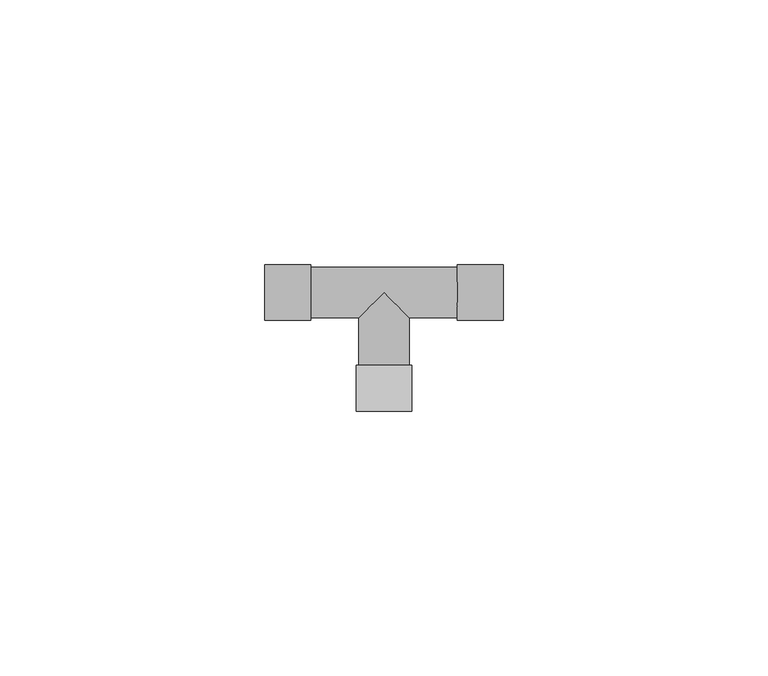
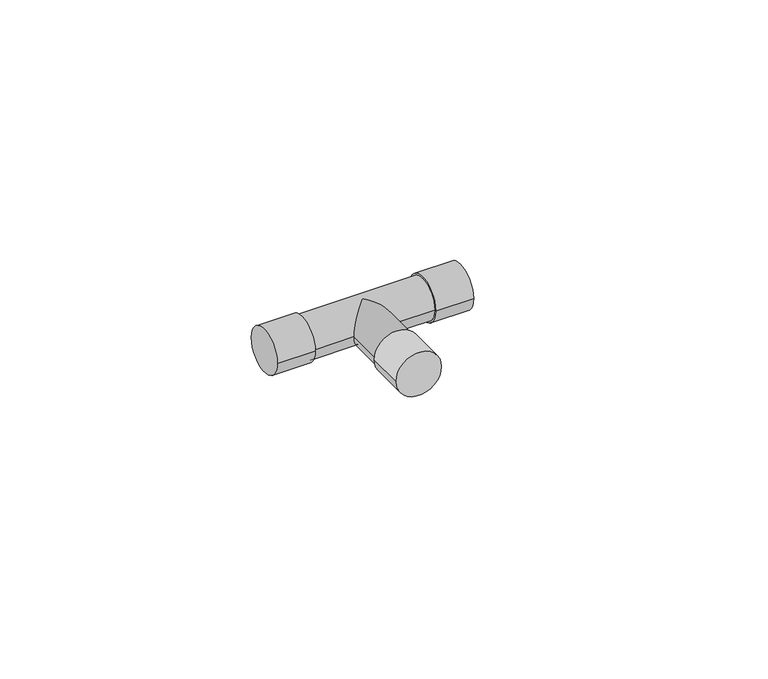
"""IFC4 building model written with IfcOpenShell, lengths in millimetres: pipe fitting geometry, Tê - Soldado - CU : Padrão."""

from ifc_helpers import new_model, si_unit, frame, origin, place, context, project, spatial, circle_curve, ellipse_curve, source, transform, mapped, element, save
from ifc_brep_helpers import plane_surface, cylinder_surface, advanced_brep


def pipe_fitting_725bd888(model_context):
    return source(origin(), model_context, "Body", "AdvancedBrep", [
        advanced_brep(
        [(5.2252, -22.4412, 0.0), (-5.2252, -22.4412, 0.0), (5.2252, -13.7568, 0.0), (-5.2252, -13.7568, 0.0), (4.76, -13.7568, 0.0), (-4.76, -13.7568, 0.0), (-22.5236, -5.2252, 0.0), (-22.5236, 5.2252, 0.0), (-13.8392, -5.2252, 0.0), (-13.8392, 5.2252, 0.0), (-13.8392, -4.76, 0.0), (-13.8392, 4.76, 0.0), (13.8392, 4.76, 0.0), (-4.76, -4.76, 0.0), (0.0, 0.0, 4.76), (4.76, -4.76, 0.0), (13.8392, -4.76, 0.0), (0.0, 0.0, -4.76), (13.8392, -5.2252, 0.0), (13.8392, 5.2252, 0.0), (22.5236, -5.2252, 0.0), (22.5236, 5.2252, 0.0)],
        [
            (0, 1, circle_curve(frame((0.0, -22.4412, 0.0), z_axis=(0.0, -1.0, 0.0), x_axis=(-1.0, 0.0, 0.0)), 5.2252)),
            (1, 0, circle_curve(frame((0.0, -22.4412, 0.0), z_axis=(0.0, -1.0, 0.0), x_axis=(-1.0, 0.0, 0.0)), 5.2252)),
            (2, 3, circle_curve(frame((0.0, -13.7568, 0.0), z_axis=(0.0, 1.0, 0.0), x_axis=(-1.0, 0.0, 0.0)), 5.2252)),
            (3, 2, circle_curve(frame((0.0, -13.7568, 0.0), z_axis=(0.0, 1.0, 0.0), x_axis=(-1.0, 0.0, 0.0)), 5.2252)),
            (4, 5, circle_curve(frame((0.0, -13.7568, 0.0), z_axis=(0.0, -1.0, 0.0), x_axis=(1.0, 0.0, 0.0)), 4.76)),
            (5, 4, circle_curve(frame((0.0, -13.7568, 0.0), z_axis=(0.0, -1.0, 0.0), x_axis=(1.0, 0.0, 0.0)), 4.76)),
            (0, 2),
            (3, 1),
            (6, 7, circle_curve(frame((-22.5236, 0.0, 0.0), z_axis=(-1.0, 0.0, 0.0), x_axis=(0.0, 1.0, 0.0)), 5.2252)),
            (7, 6, circle_curve(frame((-22.5236, 0.0, 0.0), z_axis=(-1.0, 0.0, 0.0), x_axis=(0.0, 1.0, 0.0)), 5.2252)),
            (8, 9, circle_curve(frame((-13.8392, 0.0, 0.0), z_axis=(1.0, 0.0, 0.0), x_axis=(0.0, 1.0, 0.0)), 5.2252)),
            (9, 8, circle_curve(frame((-13.8392, 0.0, 0.0), z_axis=(1.0, 0.0, 0.0), x_axis=(0.0, 1.0, 0.0)), 5.2252)),
            (10, 11, circle_curve(frame((-13.8392, 0.0, 0.0), z_axis=(-1.0, 0.0, 0.0), x_axis=(0.0, 1.0, 0.0)), 4.76)),
            (11, 10, circle_curve(frame((-13.8392, 0.0, 0.0), z_axis=(-1.0, 0.0, 0.0), x_axis=(0.0, 1.0, 0.0)), 4.76)),
            (6, 8),
            (9, 7),
            (12, 11),
            (10, 13),
            (13, 14, ellipse_curve(frame((0.0, 0.0, 0.0), z_axis=(-0.7071067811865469, 0.7071067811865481, 0.0), x_axis=(-0.707106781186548, -0.7071067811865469, 0.0)), 6.7316566, 4.76)),
            (14, 15, ellipse_curve(frame((0.0, 0.0, 0.0), z_axis=(0.7071067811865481, 0.7071067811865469, 0.0), x_axis=(-0.707106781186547, 0.7071067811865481, 0.0)), 6.7316566, 4.76)),
            (15, 16),
            (16, 12, circle_curve(frame((13.8392, 0.0, 0.0), z_axis=(-1.0, 0.0, 0.0), x_axis=(0.0, 1.0, 0.0)), 4.76)),
            (12, 16, circle_curve(frame((13.8392, 0.0, 0.0), z_axis=(-1.0, 0.0, 0.0), x_axis=(0.0, 1.0, 0.0)), 4.76)),
            (15, 17, ellipse_curve(frame((0.0, 0.0, 0.0), z_axis=(0.7071067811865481, 0.7071067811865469, 0.0), x_axis=(-0.707106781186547, 0.7071067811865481, 0.0)), 6.7316566, 4.76)),
            (17, 13, ellipse_curve(frame((0.0, 0.0, 0.0), z_axis=(-0.7071067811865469, 0.7071067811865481, 0.0), x_axis=(-0.707106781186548, -0.7071067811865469, 0.0)), 6.7316566, 4.76)),
            (18, 19, circle_curve(frame((13.8392, 0.0, 0.0), z_axis=(-1.0, 0.0, 0.0), x_axis=(0.0, 1.0, 0.0)), 5.2252)),
            (19, 18, circle_curve(frame((13.8392, 0.0, 0.0), z_axis=(-1.0, 0.0, 0.0), x_axis=(0.0, 1.0, 0.0)), 5.2252)),
            (20, 21, circle_curve(frame((22.5236, 0.0, 0.0), z_axis=(1.0, 0.0, 0.0), x_axis=(0.0, 1.0, 0.0)), 5.2252)),
            (21, 20, circle_curve(frame((22.5236, 0.0, 0.0), z_axis=(1.0, 0.0, 0.0), x_axis=(0.0, 1.0, 0.0)), 5.2252)),
            (18, 20),
            (21, 19),
            (4, 15),
            (13, 5),
        ],
        [
            plane_surface(frame((0.0, -22.4412, 0.0), z_axis=(0.0, -1.0, 0.0), x_axis=(0.0, 0.0, 1.0))),
            plane_surface(frame((0.0, -13.7568, 0.0), z_axis=(0.0, 1.0, 0.0), x_axis=(0.0, 0.0, 1.0))),
            cylinder_surface(frame((0.0, -22.4412, 0.0), z_axis=(0.0, -1.0, 0.0), x_axis=(-1.0, 0.0, 0.0)), 5.2252),
            plane_surface(frame((-22.5236, 0.0, 0.0), z_axis=(-1.0, 0.0, 0.0), x_axis=(0.0, 0.0, 1.0))),
            plane_surface(frame((-13.8392, 0.0, 0.0), z_axis=(1.0, 0.0, 0.0), x_axis=(0.0, 0.0, 1.0))),
            cylinder_surface(frame((-22.5236, 0.0, 0.0), z_axis=(-1.0, 0.0, 0.0), x_axis=(0.0, 1.0, 0.0)), 5.2252),
            cylinder_surface(frame((-13.8392, 0.0, 0.0), z_axis=(-1.0, 0.0, 0.0), x_axis=(0.0, 1.0, 0.0)), 4.76),
            plane_surface(frame((13.8392, 0.0, 0.0), z_axis=(-1.0, 0.0, 0.0), x_axis=(0.0, 0.0, 1.0))),
            plane_surface(frame((22.5236, 0.0, 0.0), z_axis=(1.0, 0.0, 0.0), x_axis=(0.0, 0.0, 1.0))),
            cylinder_surface(frame((13.8392, 0.0, 0.0), z_axis=(-1.0, 0.0, 0.0), x_axis=(0.0, 1.0, 0.0)), 5.2252),
            cylinder_surface(frame((0.0, 0.0, 0.0), z_axis=(0.0, 1.0, 0.0), x_axis=(1.0, 0.0, 0.0)), 4.76),
        ],
        [
            (0, [[1, 2]]),
            (1, [[3, 4], [5, 6]]),
            (2, [[-1, 7, -4, 8]]),
            (2, [[-2, -8, -3, -7]]),
            (3, [[9, 10]]),
            (4, [[11, 12], [13, 14]]),
            (5, [[-9, 15, -12, 16]]),
            (5, [[-10, -16, -11, -15]]),
            (6, [[17, -13, 18, 19, 20, 21, 22]]),
            (6, [[-17, 23, -21, 24, 25, -18, -14]]),
            (7, [[26, 27], [-22, -23]]),
            (8, [[28, 29]]),
            (9, [[-26, 30, -29, 31]]),
            (9, [[-27, -31, -28, -30]]),
            (10, [[32, -20, -19, 33, -5]]),
            (10, [[-32, -6, -33, -25, -24]]),
        ],
    ),
    ])


if __name__ == "__main__":
    model = new_model("IFC4")
    model_context = context("Model", 3, world=origin())
    ifc_project = project(units=[si_unit("LENGTHUNIT", "METRE", prefix="MILLI")], contexts=[model_context])
    site = spatial("IfcSite", under=ifc_project)
    building = spatial("IfcBuilding", under=site)
    placement = place(None, origin())
    pipe_fitting_shape = pipe_fitting_725bd888(model_context)
    element("IfcPipeFitting", 1, ObjectType="Tê - Soldado - CU : Padrão", at=placement, inside=building, context=model_context, shape_type="MappedRepresentation", body=[
        mapped(pipe_fitting_shape, transform((0.0, 0.0, 0.0), x_axis=(1.0, 0.0, 0.0), y_axis=(0.0, 1.0, 0.0), z_axis=(0.0, 0.0, 1.0))),
    ])
    save(model, "model.ifc")
